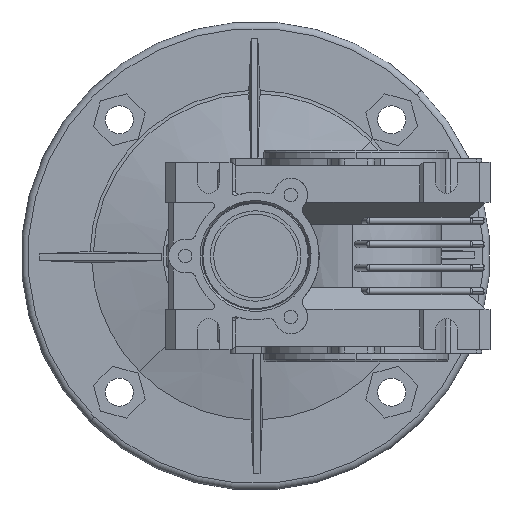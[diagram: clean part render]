
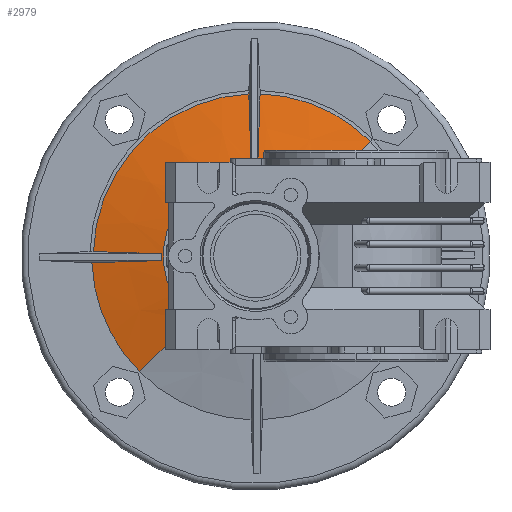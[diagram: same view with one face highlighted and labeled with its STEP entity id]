
A CAD part, front view. The second image highlights one B-rep face of the part: STEP entity #2979.
In plain terms, the highlighted conical face has half-angle 78.137 degrees and reference radius 38.211 mm.
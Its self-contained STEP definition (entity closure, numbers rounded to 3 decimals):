
#2979=ADVANCED_FACE('',(#6028),#6029,.T.);
#6028=FACE_OUTER_BOUND('',#9313,.T.);
#6029=CONICAL_SURFACE('',#9314,38.211,1.364);
#9313=EDGE_LOOP('',(#18272,#18273,#18274,#18275,#18276,#18277,#18278,#18279,#18280,#18281,#18282,#18283));
#9314=AXIS2_PLACEMENT_3D('',#18284,#18285,#18286);
#18272=ORIENTED_EDGE('',*,*,#22257,.T.);
#18273=ORIENTED_EDGE('',*,*,#22323,.F.);
#18274=ORIENTED_EDGE('',*,*,#22324,.T.);
#18275=ORIENTED_EDGE('',*,*,#22325,.T.);
#18276=ORIENTED_EDGE('',*,*,#22326,.T.);
#18277=ORIENTED_EDGE('',*,*,#22327,.F.);
#18278=ORIENTED_EDGE('',*,*,#22328,.T.);
#18279=ORIENTED_EDGE('',*,*,#22329,.T.);
#18280=ORIENTED_EDGE('',*,*,#22330,.T.);
#18281=ORIENTED_EDGE('',*,*,#22331,.T.);
#18282=ORIENTED_EDGE('',*,*,#22259,.T.);
#18283=ORIENTED_EDGE('',*,*,#22332,.F.);
#18284=CARTESIAN_POINT('',(-82.302,104.812,-19.647));
#18285=DIRECTION('',(0.,1.0,0.));
#18286=DIRECTION('',(0.707,0.,0.707));
#22257=EDGE_CURVE('',#27449,#27425,#27450,.T.);
#22259=EDGE_CURVE('',#27453,#27451,#27454,.T.);
#22323=EDGE_CURVE('',#27551,#27425,#27552,.T.);
#22324=EDGE_CURVE('',#27551,#27553,#27554,.T.);
#22325=EDGE_CURVE('',#27553,#27555,#27556,.T.);
#22326=EDGE_CURVE('',#27555,#27557,#27558,.T.);
#22327=EDGE_CURVE('',#27559,#27557,#27560,.T.);
#22328=EDGE_CURVE('',#27559,#27561,#27562,.T.);
#22329=EDGE_CURVE('',#27561,#27563,#27564,.T.);
#22330=EDGE_CURVE('',#27563,#27565,#27566,.T.);
#22331=EDGE_CURVE('',#27565,#27453,#27567,.T.);
#22332=EDGE_CURVE('',#27449,#27451,#27568,.T.);
#27425=VERTEX_POINT('',#35416);
#27449=VERTEX_POINT('',#35445);
#27450=LINE('',#35446,#35447);
#27451=VERTEX_POINT('',#35448);
#27453=VERTEX_POINT('',#35450);
#27454=LINE('',#35451,#35452);
#27551=VERTEX_POINT('',#35575);
#27552=CIRCLE('',#35576,48.414);
#27553=VERTEX_POINT('',#35577);
#27554=B_SPLINE_CURVE_WITH_KNOTS('',3,(#35578,#35579,#35580,#35581),.UNSPECIFIED.,.F.,.F.,(4,4),(699.935,699.956),.UNSPECIFIED.);
#27555=VERTEX_POINT('',#35582);
#27556=CIRCLE('',#35583,132.314);
#27557=VERTEX_POINT('',#35584);
#27558=B_SPLINE_CURVE_WITH_KNOTS('',3,(#35585,#35586,#35587,#35588),.UNSPECIFIED.,.F.,.F.,(4,4),(649.982,650.002),.UNSPECIFIED.);
#27559=VERTEX_POINT('',#35589);
#27560=CIRCLE('',#35590,48.414);
#27561=VERTEX_POINT('',#35591);
#27562=B_SPLINE_CURVE_WITH_KNOTS('',3,(#35592,#35593,#35594,#35595),.UNSPECIFIED.,.F.,.F.,(4,4),(700.266,700.287),.UNSPECIFIED.);
#27563=VERTEX_POINT('',#35596);
#27564=CIRCLE('',#35597,132.332);
#27565=VERTEX_POINT('',#35598);
#27566=B_SPLINE_CURVE_WITH_KNOTS('',3,(#35599,#35600,#35601,#35602),.UNSPECIFIED.,.F.,.F.,(4,4),(649.72,649.741),.UNSPECIFIED.);
#27567=CIRCLE('',#35603,48.923);
#27568=CIRCLE('',#35604,27.5);
#35416=CARTESIAN_POINT('',(-48.068,106.956,14.587));
#35445=CARTESIAN_POINT('',(-62.856,102.562,-0.202));
#35446=CARTESIAN_POINT('',(-55.282,104.812,7.373));
#35447=VECTOR('',#40046,1.0);
#35448=CARTESIAN_POINT('',(-101.747,102.562,-39.092));
#35450=CARTESIAN_POINT('',(-116.895,107.062,-54.241));
#35451=CARTESIAN_POINT('',(-109.321,104.812,-46.667));
#35452=VECTOR('',#40050,1.0);
#35575=CARTESIAN_POINT('',(-80.953,106.956,28.749));
#35576=AXIS2_PLACEMENT_3D('',#40155,#40156,#40157);
#35577=CARTESIAN_POINT('',(-81.617,102.698,8.488));
#35578=CARTESIAN_POINT('',(-80.953,106.956,28.749));
#35579=CARTESIAN_POINT('',(-81.174,105.536,21.995));
#35580=CARTESIAN_POINT('',(-81.396,104.117,15.241));
#35581=CARTESIAN_POINT('',(-81.617,102.698,8.488));
#35582=CARTESIAN_POINT('',(-83.661,102.702,8.486));
#35583=AXIS2_PLACEMENT_3D('',#40158,#40159,#40160);
#35584=CARTESIAN_POINT('',(-84.317,106.956,28.725));
#35585=CARTESIAN_POINT('',(-83.661,102.702,8.486));
#35586=CARTESIAN_POINT('',(-83.88,104.12,15.233));
#35587=CARTESIAN_POINT('',(-84.098,105.538,21.979));
#35588=CARTESIAN_POINT('',(-84.317,106.956,28.725));
#35589=CARTESIAN_POINT('',(-130.698,106.956,-18.317));
#35590=AXIS2_PLACEMENT_3D('',#40161,#40162,#40163);
#35591=CARTESIAN_POINT('',(-110.448,102.7,-18.971));
#35592=CARTESIAN_POINT('',(-130.698,106.956,-18.317));
#35593=CARTESIAN_POINT('',(-123.948,105.537,-18.535));
#35594=CARTESIAN_POINT('',(-117.198,104.118,-18.753));
#35595=CARTESIAN_POINT('',(-110.448,102.7,-18.971));
#35596=CARTESIAN_POINT('',(-110.445,102.704,-20.999));
#35597=AXIS2_PLACEMENT_3D('',#40164,#40165,#40166);
#35598=CARTESIAN_POINT('',(-131.183,107.062,-21.668));
#35599=CARTESIAN_POINT('',(-110.445,102.704,-20.999));
#35600=CARTESIAN_POINT('',(-117.358,104.157,-21.222));
#35601=CARTESIAN_POINT('',(-124.27,105.61,-21.445));
#35602=CARTESIAN_POINT('',(-131.183,107.062,-21.668));
#35603=AXIS2_PLACEMENT_3D('',#40167,#40168,#40169);
#35604=AXIS2_PLACEMENT_3D('',#40170,#40171,#40172);
#40046=DIRECTION('',(0.692,0.206,0.692));
#40050=DIRECTION('',(0.692,-0.206,0.692));
#40155=CARTESIAN_POINT('',(-82.302,106.956,-19.647));
#40156=DIRECTION('',(0.,1.0,0.));
#40157=DIRECTION('',(0.702,0.,0.712));
#40158=CARTESIAN_POINT('',(-82.315,220.753,-51.256));
#40159=DIRECTION('',(0.,-0.452,-0.892));
#40160=DIRECTION('',(0.005,-0.892,0.452));
#40161=CARTESIAN_POINT('',(-82.302,106.956,-19.647));
#40162=DIRECTION('',(0.,1.0,0.));
#40163=DIRECTION('',(-0.712,0.,0.702));
#40164=CARTESIAN_POINT('',(-50.595,220.721,-19.647));
#40165=DIRECTION('',(0.892,-0.452,0.));
#40166=DIRECTION('',(-0.452,-0.892,0.005));
#40167=CARTESIAN_POINT('',(-82.302,107.062,-19.647));
#40168=DIRECTION('',(0.,-1.0,0.));
#40169=DIRECTION('',(-0.707,0.,-0.707));
#40170=CARTESIAN_POINT('',(-82.302,102.562,-19.647));
#40171=DIRECTION('',(0.,-1.0,0.));
#40172=DIRECTION('',(-0.707,0.,-0.707));
